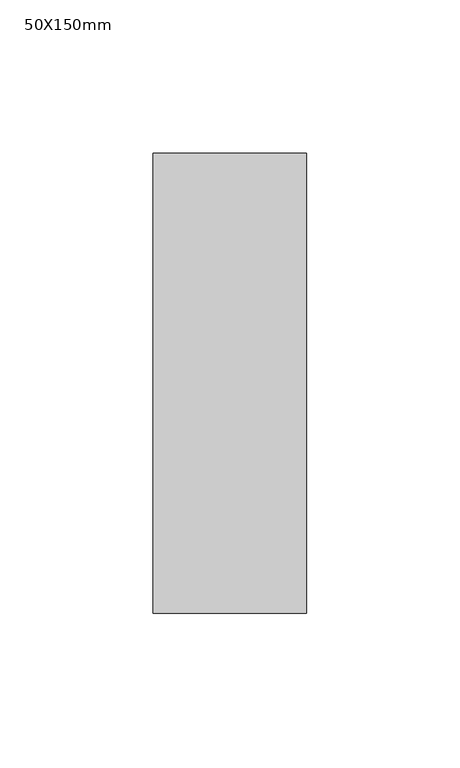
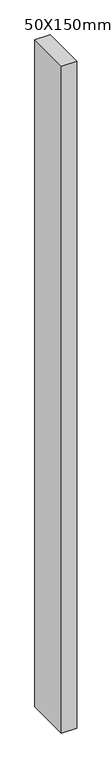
"""IFC4 building model written with IfcOpenShell, lengths in millimetres: member geometry, 矩形竖梃 : 50X150mm."""

from ifc_helpers import new_model, si_unit, frame, origin, place, context, project, spatial, polyline, outline, extrude, source, transform, mapped, element, save


def member_50x150mm_14293e16(model_context):
    return source(origin(), model_context, "Body", "SweptSolid", [
        extrude(outline(polyline([(0.0, 75.0), (0.0, -75.0), (-50.0, -75.0), (-50.0, 75.0), (0.0, 75.0)])), frame((0.0, 0.0, -2310.0), z_axis=(0.0, 0.0, 1.0), x_axis=(1.0, 0.0, 0.0)), (0.0, 0.0, 1.0), 2310.0),
    ])


if __name__ == "__main__":
    model = new_model("IFC4")
    model_context = context("Model", 3, world=origin())
    ifc_project = project(units=[si_unit("LENGTHUNIT", "METRE", prefix="MILLI")], contexts=[model_context])
    site = spatial("IfcSite", under=ifc_project)
    building = spatial("IfcBuilding", under=site)
    placement = place(None, origin())
    member_50x150mm_shape = member_50x150mm_14293e16(model_context)
    element("IfcMember", 1, ObjectType="矩形竖梃 : 50X150mm", at=placement, inside=building, context=model_context, shape_type="MappedRepresentation", body=[
        mapped(member_50x150mm_shape, transform((0.0, 0.0, 0.0), x_axis=(1.0, 0.0, 0.0), y_axis=(0.0, 1.0, 0.0), z_axis=(0.0, 0.0, 1.0))),
    ])
    save(model, "model.ifc")
